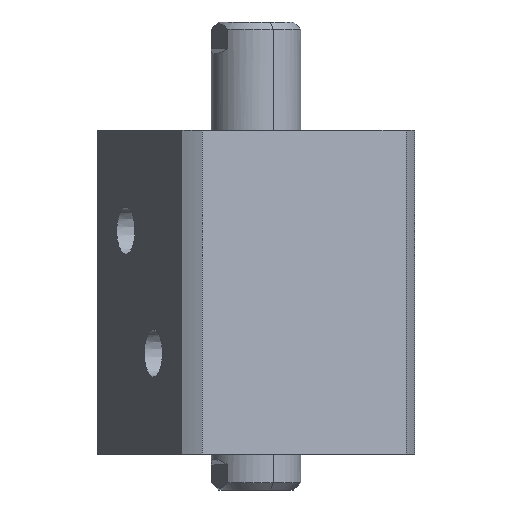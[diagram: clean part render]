
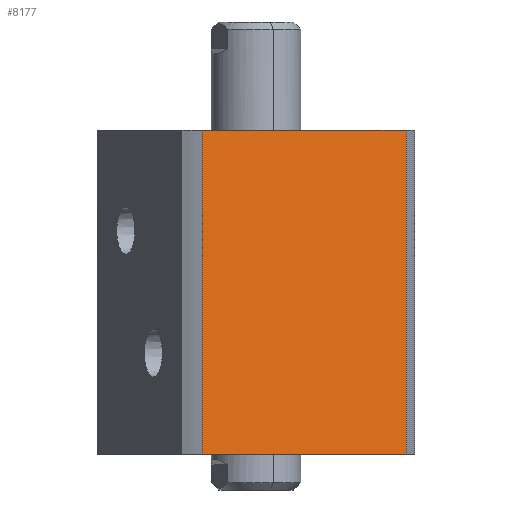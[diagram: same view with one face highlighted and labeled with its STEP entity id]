
A CAD part, left-side view. The second image highlights one B-rep face of the part: STEP entity #8177.
In plain terms, the highlighted planar face has unit normal (-0.924, -0.383, 0) as drawn and (1, 0, 0) by its records, which use the part's own axes.
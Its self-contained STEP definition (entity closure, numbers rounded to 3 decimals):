
#374 = LINE ( 'NONE', #8227, #8623 ) ;
#498 = ORIENTED_EDGE ( 'NONE', *, *, #10022, .F. ) ;
#777 = LINE ( 'NONE', #841, #9029 ) ;
#841 = CARTESIAN_POINT ( 'NONE',  ( 35., 35., 0. ) ) ;
#1872 = LINE ( 'NONE', #2499, #3967 ) ;
#2306 = CARTESIAN_POINT ( 'NONE',  ( 35., -30.615, 90. ) ) ;
#2446 = CARTESIAN_POINT ( 'NONE',  ( 35., 35., 90. ) ) ;
#2499 = CARTESIAN_POINT ( 'NONE',  ( 35., 35., 90. ) ) ;
#2587 = VERTEX_POINT ( 'NONE', #2306 ) ;
#2644 = DIRECTION ( 'NONE',  ( 0., 0., -1. ) ) ;
#3178 = VERTEX_POINT ( 'NONE', #7393 ) ;
#3574 = VERTEX_POINT ( 'NONE', #6232 ) ;
#3967 = VECTOR ( 'NONE', #9705, 1000. ) ;
#4014 = DIRECTION ( 'NONE',  ( -1., 0., 0. ) ) ;
#4208 = EDGE_LOOP ( 'NONE', ( #7697, #6590, #5831, #498 ) ) ;
#4373 = FACE_OUTER_BOUND ( 'NONE', #4208, .T. ) ;
#4672 = AXIS2_PLACEMENT_3D ( 'NONE', #2446, #4014, #9644 ) ;
#4792 = PLANE ( 'NONE',  #4672 ) ;
#5831 = ORIENTED_EDGE ( 'NONE', *, *, #10208, .F. ) ;
#5980 = EDGE_CURVE ( 'NONE', #3574, #2587, #6519, .T. ) ;
#6015 = VECTOR ( 'NONE', #7873, 1000. ) ;
#6232 = CARTESIAN_POINT ( 'NONE',  ( 35., -30.615, 0. ) ) ;
#6519 = LINE ( 'NONE', #8654, #6015 ) ;
#6541 = CARTESIAN_POINT ( 'NONE',  ( 35., 30.615, 90. ) ) ;
#6590 = ORIENTED_EDGE ( 'NONE', *, *, #7156, .T. ) ;
#7156 = EDGE_CURVE ( 'NONE', #3574, #3178, #777, .T. ) ;
#7385 = VERTEX_POINT ( 'NONE', #6541 ) ;
#7393 = CARTESIAN_POINT ( 'NONE',  ( 35., 30.615, 0. ) ) ;
#7697 = ORIENTED_EDGE ( 'NONE', *, *, #5980, .F. ) ;
#7873 = DIRECTION ( 'NONE',  ( 0., 0., 1. ) ) ;
#8058 = DIRECTION ( 'NONE',  ( 0., 1., 0. ) ) ;
#8177 = ADVANCED_FACE ( 'NONE', ( #4373 ), #4792, .F. ) ;
#8227 = CARTESIAN_POINT ( 'NONE',  ( 35., 30.615, -210. ) ) ;
#8623 = VECTOR ( 'NONE', #2644, 1000. ) ;
#8654 = CARTESIAN_POINT ( 'NONE',  ( 35., -30.615, -210. ) ) ;
#9029 = VECTOR ( 'NONE', #8058, 1000. ) ;
#9644 = DIRECTION ( 'NONE',  ( 0., -1., 0. ) ) ;
#9705 = DIRECTION ( 'NONE',  ( 0., 1., 0. ) ) ;
#10022 = EDGE_CURVE ( 'NONE', #2587, #7385, #1872, .T. ) ;
#10208 = EDGE_CURVE ( 'NONE', #7385, #3178, #374, .T. ) ;
